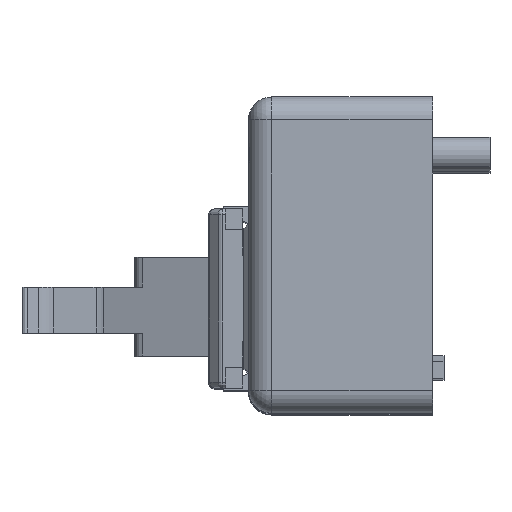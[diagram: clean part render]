
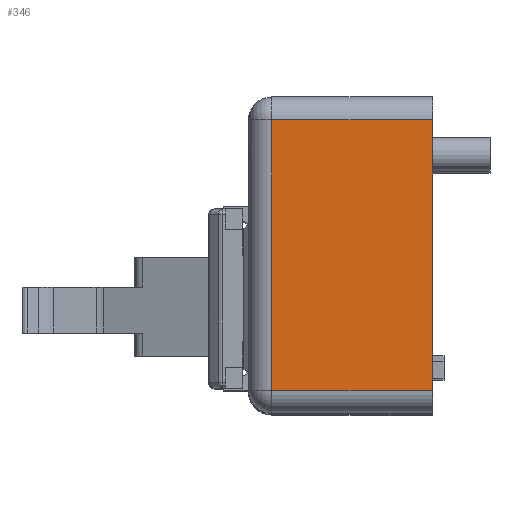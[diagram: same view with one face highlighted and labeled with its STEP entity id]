
A CAD part, top view. The second image highlights one B-rep face of the part: STEP entity #346.
In plain terms, the highlighted planar face has unit normal (0, 0, 1).
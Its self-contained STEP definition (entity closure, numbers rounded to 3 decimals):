
#346=ADVANCED_FACE('',(#2878),#2877,.T.);
#2877=PLANE('',#5899);
#2878=FACE_OUTER_BOUND('',#5900,.T.);
#5896=CARTESIAN_POINT('',(-15.4,-35.35,62.2));
#5897=DIRECTION('',(0.,0.,1.));
#5898=DIRECTION('',(1.,0.,0.));
#5899=AXIS2_PLACEMENT_3D('',#5896,#5897,#5898);
#5900=EDGE_LOOP('',(#8294,#8295,#8296,#8297));
#8294=ORIENTED_EDGE('',*,*,#9940,.F.);
#8295=ORIENTED_EDGE('',*,*,#10011,.T.);
#8296=ORIENTED_EDGE('',*,*,#10008,.T.);
#8297=ORIENTED_EDGE('',*,*,#10012,.F.);
#9940=EDGE_CURVE('',#14916,#14923,#14924,.T.);
#10008=EDGE_CURVE('',#15390,#15391,#15392,.T.);
#10011=EDGE_CURVE('',#14916,#15390,#15410,.T.);
#10012=EDGE_CURVE('',#14923,#15391,#15416,.T.);
#14916=VERTEX_POINT('',#20974);
#14923=VERTEX_POINT('',#20979);
#14924=LINE('',#20980,#20981);
#15390=VERTEX_POINT('',#21253);
#15391=VERTEX_POINT('',#21254);
#15392=LINE('',#21255,#21256);
#15410=LINE('',#21266,#21267);
#15416=LINE('',#21269,#21270);
#20974=CARTESIAN_POINT('',(-14.,-9.5,62.2));
#20979=CARTESIAN_POINT('',(0.,-9.5,62.2));
#20980=CARTESIAN_POINT('',(-14.,-9.5,62.2));
#20981=VECTOR('',#20982,14.);
#20982=DIRECTION('',(1.,0.,0.));
#21253=CARTESIAN_POINT('',(-14.,-33.,62.2));
#21254=CARTESIAN_POINT('',(0.,-33.,62.2));
#21255=CARTESIAN_POINT('',(-14.,-33.,62.2));
#21256=VECTOR('',#21257,14.);
#21257=DIRECTION('',(1.,0.,0.));
#21266=CARTESIAN_POINT('',(-14.,-9.5,62.2));
#21267=VECTOR('',#21268,23.5);
#21268=DIRECTION('',(0.,-1.,0.));
#21269=CARTESIAN_POINT('',(0.,-9.5,62.2));
#21270=VECTOR('',#21271,23.5);
#21271=DIRECTION('',(0.,-1.,0.));
